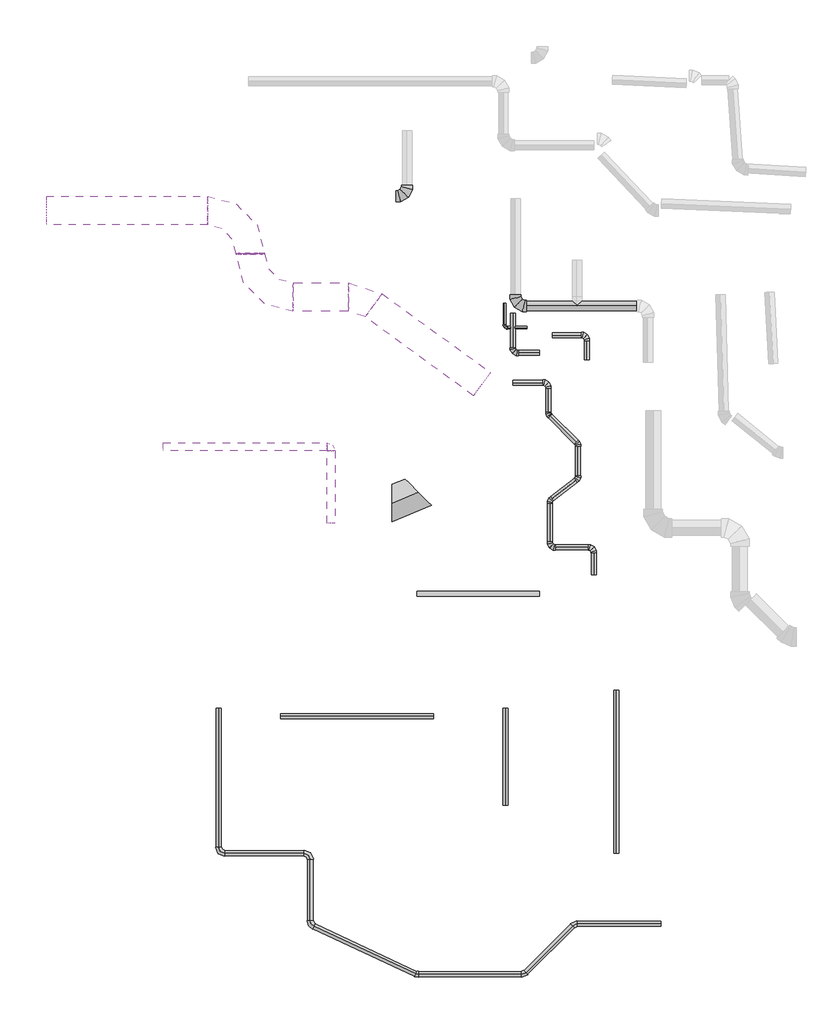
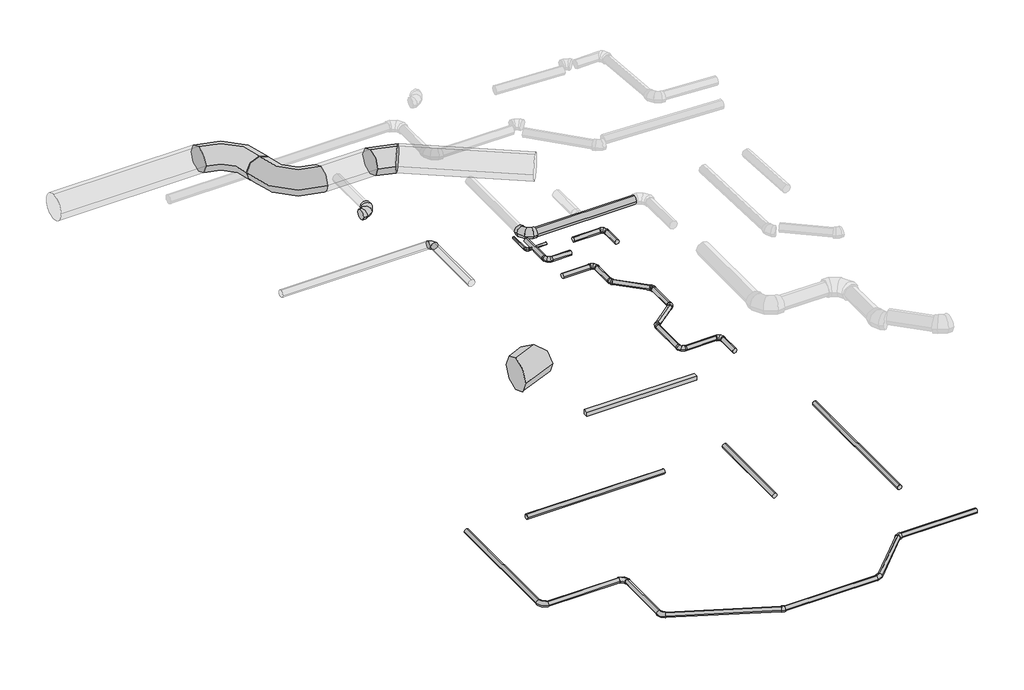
# One storey, part 1 of 3: 30 duct segments, 22 duct fittings, 2 pipe segments, 1 pipe fitting.
"""IFC4 building model written with IfcOpenShell, lengths in millimetres."""

from ifc_helpers import new_model, si_unit, point, frame, frame_2d, origin, place, context, project, spatial, polyline, circle_curve, trimmed, segment, composite_curve, outline, extrude, transform, mapped, element, save
from components import duct_fitting_6987a024, duct_fitting_27cbf9b6, duct_fitting_69a142ec, duct_fitting_c88ccaa3, duct_fitting_2eb66d24, duct_fitting_f8626610, duct_fitting_3c3d5e25, duct_fitting_da02216d, duct_fitting_e8799786, duct_fitting_a78c4c42, duct_fitting_1_5_d_baae490d, duct_fitting_1_5_d_02080cf1, pipe_fitting_aa2ad946

model = new_model("IFC4")

# Units and contexts
model_context = context("Model", 3, world=origin())
ifc_project = project(units=[si_unit("LENGTHUNIT", "METRE", prefix="MILLI")], contexts=[model_context])

# Site, building, storey
site = spatial("IfcSite", under=ifc_project)
building = spatial("IfcBuilding", under=site)
storey = spatial("IfcBuildingStorey", under=building, Name="Уровень 1", Elevation=0.0)

# Duct fittings
placement = place(None, origin())
duct_fitting_shape = duct_fitting_6987a024(model_context)
element("IfcDuctFitting", 1, ObjectType="17_Отвод_Заключение : 10_Отвод_3D объект", at=placement, inside=storey, context=model_context, shape_type="MappedRepresentation", body=[
    mapped(duct_fitting_shape, transform((-4537.0211343, -1885.8149029, 0.0), x_axis=(1.0, 0.0, 0.0), y_axis=(0.0, 1.0, 0.0), z_axis=(0.0, 0.0, 1.0))),
])
element("IfcDuctFitting", 2, ObjectType="17_Отвод_Заключение : 10_Отвод_3D объект", at=placement, inside=storey, context=model_context, shape_type="MappedRepresentation", body=[
    mapped(duct_fitting_shape, transform((-2409.9839387, -4038.667233, 0.0), x_axis=(0.0, -1.0, 0.0), y_axis=(1.0, 0.0, 0.0), z_axis=(0.0, 0.0, 1.0))),
])
duct_fitting_2_shape = duct_fitting_27cbf9b6(model_context)
element("IfcDuctFitting", 3, ObjectType="17_Отвод_Заключение : 10_Отвод_3D объект", at=placement, inside=storey, context=model_context, shape_type="MappedRepresentation", body=[
    mapped(duct_fitting_2_shape, transform((-2626.6796445, -4464.2825937, 0.0), x_axis=(0.0, -1.0, 0.0), y_axis=(1.0, 0.0, 0.0), z_axis=(0.0, 0.0, 1.0))),
])
duct_fitting_3_shape = duct_fitting_69a142ec(model_context)
element("IfcDuctFitting", 4, ObjectType="17_Отвод_Заключение : 10_Отвод_3D объект", at=placement, inside=storey, context=model_context, shape_type="MappedRepresentation", body=[
    mapped(duct_fitting_3_shape, transform((-2465.4302984, -4959.1993857, 0.0), x_axis=(0.0, -1.0, 0.0), y_axis=(1.0, 0.0, 0.0), z_axis=(0.0, 0.0, 1.0))),
])
element("IfcDuctFitting", 5, ObjectType="17_Отвод_Заключение : 10_Отвод_3D объект", at=placement, inside=storey, context=model_context, shape_type="MappedRepresentation", body=[
    mapped(duct_fitting_3_shape, transform((-1010.431462, -4610.2651174, 0.0), x_axis=(0.0, 1.0, 0.0), y_axis=(-1.0, 0.0, 0.0), z_axis=(0.0, 0.0, 1.0))),
])
element("IfcDuctFitting", 6, ObjectType="17_Отвод_Заключение : 10_Отвод_3D объект", at=placement, inside=storey, context=model_context, shape_type="MappedRepresentation", body=[
    mapped(duct_fitting_3_shape, transform((-1765.4302984, -5542.2332324, 0.0), x_axis=(0.0, 1.0, 0.0), y_axis=(-1.0, 0.0, 0.0), z_axis=(0.0, 0.0, 1.0))),
])
element("IfcDuctFitting", 7, ObjectType="17_Отвод_Заключение : 10_Отвод_3D объект", at=placement, inside=storey, context=model_context, shape_type="MappedRepresentation", body=[
    mapped(duct_fitting_3_shape, transform((-1737.2102653, -8773.0238257, 0.0), x_axis=(0.0, -1.0, 0.0), y_axis=(1.0, 0.0, 0.0), z_axis=(0.0, 0.0, 1.0))),
])
element("IfcDuctFitting", 8, ObjectType="17_Отвод_Заключение : 10_Отвод_3D объект", at=placement, inside=storey, context=model_context, shape_type="MappedRepresentation", body=[
    mapped(duct_fitting_3_shape, transform((-877.2102653, -8773.0238257, 0.0), x_axis=(0.0, 1.0, 0.0), y_axis=(-1.0, 0.0, 0.0), z_axis=(0.0, 0.0, 1.0))),
])
duct_fitting_4_shape = duct_fitting_c88ccaa3(model_context)
element("IfcDuctFitting", 9, ObjectType="17_Отвод_Заключение : 10_Отвод_3D объект", at=placement, inside=storey, context=model_context, shape_type="MappedRepresentation", body=[
    mapped(duct_fitting_4_shape, transform((-1765.4302984, -6162.2332324, 0.0), x_axis=(0.0, -1.0, 0.0), y_axis=(1.0, 0.0, 0.0), z_axis=(0.0, 0.0, 1.0))),
])
element("IfcDuctFitting", 10, ObjectType="17_Отвод_Заключение : 10_Отвод_3D объект", at=placement, inside=storey, context=model_context, shape_type="MappedRepresentation", body=[
    mapped(duct_fitting_4_shape, transform((-1185.6027378, -6742.0607929, 0.0), x_axis=(0.0, 1.0, 0.0), y_axis=(-1.0, 0.0, 0.0), z_axis=(0.0, 0.0, 1.0))),
])
duct_fitting_5_shape = duct_fitting_2eb66d24(model_context)
element("IfcDuctFitting", 11, ObjectType="17_Отвод_Заключение : 10_Отвод_3D объект", at=placement, inside=storey, context=model_context, shape_type="MappedRepresentation", body=[
    mapped(duct_fitting_5_shape, transform((-1185.6027378, -7422.0607929, 0.0), x_axis=(0.7880107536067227, 0.6156614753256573, 0.0), y_axis=(-0.6156614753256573, 0.7880107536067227, 0.0), z_axis=(0.0, 0.0, 1.0))),
])
element("IfcDuctFitting", 12, ObjectType="17_Отвод_Заключение : 10_Отвод_3D объект", at=placement, inside=storey, context=model_context, shape_type="MappedRepresentation", body=[
    mapped(duct_fitting_5_shape, transform((-1737.2102653, -7853.0238257, 0.0), x_axis=(-0.7880107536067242, -0.6156614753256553, 0.0), y_axis=(0.6156614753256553, -0.7880107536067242, 0.0), z_axis=(0.0, 0.0, 1.0))),
])
duct_fitting_6_shape = duct_fitting_f8626610(model_context)
element("IfcDuctFitting", 13, ObjectType="Семейство10 : Стандартная", at=placement, inside=storey, context=model_context, shape_type="MappedRepresentation", body=[
    mapped(duct_fitting_6_shape, transform((-4537.0211343, -7904.7234801, 0.0), x_axis=(1.0, 0.0, 0.0), y_axis=(0.0, 1.0, 0.0), z_axis=(0.0, 0.0, 1.0))),
])
duct_fitting_7_shape = duct_fitting_3c3d5e25(model_context)
element("IfcDuctFitting", 14, ObjectType="Семейство10 : Стандартная", at=placement, inside=storey, context=model_context, shape_type="MappedRepresentation", body=[
    mapped(duct_fitting_7_shape, transform((-8239.6314798, -14771.3557162, 0.0), x_axis=(0.0, -1.0, 0.0), y_axis=(1.0, 0.0, 0.0), z_axis=(0.0, 0.0, 1.0))),
])
element("IfcDuctFitting", 15, ObjectType="Семейство10 : Стандартная", at=placement, inside=storey, context=model_context, shape_type="MappedRepresentation", body=[
    mapped(duct_fitting_7_shape, transform((-6439.6314798, -14771.3557162, 0.0), x_axis=(0.0, 1.0, 0.0), y_axis=(-1.0, 0.0, 0.0), z_axis=(0.0, 0.0, 1.0))),
])
duct_fitting_8_shape = duct_fitting_da02216d(model_context)
element("IfcDuctFitting", 16, ObjectType="Семейство10 : Стандартная", at=placement, inside=storey, context=model_context, shape_type="MappedRepresentation", body=[
    mapped(duct_fitting_8_shape, transform((-6439.6314798, -16171.3557162, 0.0), x_axis=(0.0, -1.0, 0.0), y_axis=(1.0, 0.0, 0.0), z_axis=(0.0, 0.0, 1.0))),
])
duct_fitting_9_shape = duct_fitting_e8799786(model_context)
element("IfcDuctFitting", 17, ObjectType="Семейство10 : Стандартная", at=placement, inside=storey, context=model_context, shape_type="MappedRepresentation", body=[
    mapped(duct_fitting_9_shape, transform((-4345.4302984, -17147.8977648, 0.0), x_axis=(0.9063077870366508, -0.4226182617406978, 0.0), y_axis=(0.4226182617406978, 0.9063077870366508, 0.0), z_axis=(0.0, 0.0, 1.0))),
])
duct_fitting_10_shape = duct_fitting_a78c4c42(model_context)
element("IfcDuctFitting", 18, ObjectType="Семейство10 : Стандартная", at=placement, inside=storey, context=model_context, shape_type="MappedRepresentation", body=[
    mapped(duct_fitting_10_shape, transform((-2245.4302984, -17147.8977648, 0.0), x_axis=(1.0, 0.0, 0.0), y_axis=(0.0, 1.0, 0.0), z_axis=(0.0, 0.0, 1.0))),
])
element("IfcDuctFitting", 19, ObjectType="Семейство10 : Стандартная", at=placement, inside=storey, context=model_context, shape_type="MappedRepresentation", body=[
    mapped(duct_fitting_10_shape, transform((-1255.4808047, -16157.9482712, 0.0), x_axis=(-1.0, 0.0, 0.0), y_axis=(0.0, -1.0, 0.0), z_axis=(0.0, 0.0, 1.0))),
])
duct_fitting_1_5_d_shape = duct_fitting_1_5_d_baae490d(model_context)
element("IfcDuctFitting", 20, ObjectType="M_Отвод круглого сечения : 1.5 D", at=placement, inside=storey, context=model_context, shape_type="MappedRepresentation", body=[
    mapped(duct_fitting_1_5_d_shape, transform((-7615.9250029, -2165.8149029, 2750.0), x_axis=(0.0, 1.0, 0.0), y_axis=(-1.0, 0.0, 0.0), z_axis=(0.0, 0.0, 1.0))),
])
element("IfcDuctFitting", 21, ObjectType="M_Отвод круглого сечения : 1.5 D", at=placement, inside=storey, context=model_context, shape_type="MappedRepresentation", body=[
    mapped(duct_fitting_1_5_d_shape, transform((-7615.9250029, -3865.8149029, 2750.0), x_axis=(0.0, -1.0, 0.0), y_axis=(1.0, 0.0, 0.0), z_axis=(0.0, 0.0, 1.0))),
])
duct_fitting_1_5_d_2_shape = duct_fitting_1_5_d_02080cf1(model_context)
element("IfcDuctFitting", 22, ObjectType="M_Отвод круглого сечения : 1.5 D", at=placement, inside=storey, context=model_context, shape_type="MappedRepresentation", body=[
    mapped(duct_fitting_1_5_d_2_shape, transform((-5415.9250029, -3865.8149029, 2750.0), x_axis=(-0.8090169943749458, 0.5877852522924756, 0.0), y_axis=(-0.5877852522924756, -0.8090169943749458, 0.0), z_axis=(0.0, 0.0, 1.0))),
])

# Duct segments
element("IfcDuctSegment", 23, ObjectType="Врезки", at=placement, inside=storey, context=model_context, shape_type="SweptSolid", body=[
    extrude(outline(composite_curve([segment(trimmed(circle_curve(frame_2d((-2165.8149029, 2750.0)), 280.0), [point((-2445.8149029, 2750.0))], [point((-2165.8149029, 3030.0))], False, "CARTESIAN"), True, "CONTINUOUS"), segment(trimmed(circle_curve(frame_2d((-2165.8149029, 2750.0)), 280.0), [point((-2165.8149029, 3030.0))], [point((-1885.8149029, 2750.0))], False, "CARTESIAN"), True, "CONTINUOUS"), segment(trimmed(circle_curve(frame_2d((-2165.8149029, 2750.0)), 280.0), [point((-1885.8149029, 2750.0))], [point((-2165.8149029, 2470.0))], False, "CARTESIAN"), True, "CONTINUOUS"), segment(trimmed(circle_curve(frame_2d((-2165.8149029, 2750.0)), 280.0), [point((-2165.8149029, 2470.0))], [point((-2445.8149029, 2750.0))], False, "CARTESIAN"), True, "CONTINUOUS")], self_intersect=False)), frame((-11615.9250029, 0.0, 0.0), z_axis=(1.0, 0.0, 0.0), x_axis=(0.0, 1.0, 0.0)), (0.0, 0.0, 1.0), 3160.0),
])
element("IfcDuctSegment", 24, ObjectType="Врезки", at=placement, inside=storey, context=model_context, shape_type="SweptSolid", body=[
    extrude(outline(composite_curve([segment(trimmed(circle_curve(frame_2d((2750.0, -7615.9250029)), 280.0), [point((2750.0, -7895.9250029))], [point((2470.0, -7615.9250029))], False, "CARTESIAN"), True, "CONTINUOUS"), segment(trimmed(circle_curve(frame_2d((2750.0, -7615.9250029)), 280.0), [point((2470.0, -7615.9250029))], [point((2750.0, -7335.9250029))], False, "CARTESIAN"), True, "CONTINUOUS"), segment(trimmed(circle_curve(frame_2d((2750.0, -7615.9250029)), 280.0), [point((2750.0, -7335.9250029))], [point((3030.0, -7615.9250029))], False, "CARTESIAN"), True, "CONTINUOUS"), segment(trimmed(circle_curve(frame_2d((2750.0, -7615.9250029)), 280.0), [point((3030.0, -7615.9250029))], [point((2750.0, -7895.9250029))], False, "CARTESIAN"), True, "CONTINUOUS")], self_intersect=False)), frame((0.0, -3025.8149029, 0.0), z_axis=(0.0, 1.0, 0.0), x_axis=(0.0, 0.0, 1.0)), (0.0, 0.0, 1.0), 20.0),
])
element("IfcDuctSegment", 25, ObjectType="Врезки", at=placement, inside=storey, context=model_context, shape_type="SweptSolid", body=[
    extrude(outline(composite_curve([segment(trimmed(circle_curve(frame_2d((-3865.8149029, 2750.0)), 280.0), [point((-4145.8149029, 2750.0))], [point((-3865.8149029, 3030.0))], False, "CARTESIAN"), True, "CONTINUOUS"), segment(trimmed(circle_curve(frame_2d((-3865.8149029, 2750.0)), 280.0), [point((-3865.8149029, 3030.0))], [point((-3585.8149029, 2750.0))], False, "CARTESIAN"), True, "CONTINUOUS"), segment(trimmed(circle_curve(frame_2d((-3865.8149029, 2750.0)), 280.0), [point((-3585.8149029, 2750.0))], [point((-3865.8149029, 2470.0))], False, "CARTESIAN"), True, "CONTINUOUS"), segment(trimmed(circle_curve(frame_2d((-3865.8149029, 2750.0)), 280.0), [point((-3865.8149029, 2470.0))], [point((-4145.8149029, 2750.0))], False, "CARTESIAN"), True, "CONTINUOUS")], self_intersect=False)), frame((-6775.9250029, 0.0, 0.0), z_axis=(1.0, 0.0, 0.0), x_axis=(0.0, 1.0, 0.0)), (0.0, 0.0, 1.0), 1087.0674552),
])
element("IfcDuctSegment", 26, ObjectType="Врезки", at=placement, inside=storey, context=model_context, shape_type="SweptSolid", body=[
    extrude(outline(composite_curve([segment(trimmed(circle_curve(frame_2d((0.0, -280.0)), 280.0), [point((-280.0, -280.0))], [point((0.0, 0.0))], False, "CARTESIAN"), True, "CONTINUOUS"), segment(trimmed(circle_curve(frame_2d((0.0, -280.0)), 280.0), [point((0.0, 0.0))], [point((280.0, -280.0))], False, "CARTESIAN"), True, "CONTINUOUS"), segment(trimmed(circle_curve(frame_2d((0.0, -280.0)), 280.0), [point((280.0, -280.0))], [point((0.0, -560.0))], False, "CARTESIAN"), True, "CONTINUOUS"), segment(trimmed(circle_curve(frame_2d((0.0, -280.0)), 280.0), [point((0.0, -560.0))], [point((-280.0, -280.0))], False, "CARTESIAN"), True, "CONTINUOUS")], self_intersect=False)), frame((-3069.7757192, -5570.3921345, 2470.0), z_axis=(-0.8090169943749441, 0.5877852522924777, 0.0), x_axis=(0.5877852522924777, 0.8090169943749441, 0.0)), (0.0, 0.0, 1.0), 2627.0674552),
])
element("IfcDuctSegment", 27, ObjectType="Врезки 2", at=placement, inside=storey, context=model_context, shape_type="SweptSolid", body=[
    extrude(outline(composite_curve([segment(trimmed(circle_curve(frame_2d((-4038.667233, 0.0)), 90.0), [point((-4128.667233, 0.0))], [point((-4038.667233, 90.0))], False, "CARTESIAN"), True, "CONTINUOUS"), segment(trimmed(circle_curve(frame_2d((-4038.667233, 0.0)), 90.0), [point((-4038.667233, 90.0))], [point((-3948.667233, 0.0))], False, "CARTESIAN"), True, "CONTINUOUS"), segment(trimmed(circle_curve(frame_2d((-4038.667233, 0.0)), 90.0), [point((-3948.667233, 0.0))], [point((-4038.667233, -90.0))], False, "CARTESIAN"), True, "CONTINUOUS"), segment(trimmed(circle_curve(frame_2d((-4038.667233, 0.0)), 90.0), [point((-4038.667233, -90.0))], [point((-4128.667233, 0.0))], False, "CARTESIAN"), True, "CONTINUOUS")], self_intersect=False)), frame((-2193.9839387, 0.0, 0.0), z_axis=(1.0, 0.0, 0.0), x_axis=(0.0, 1.0, 0.0)), (0.0, 0.0, 1.0), 2168.0),
])
element("IfcDuctSegment", 28, ObjectType="Врезки 2", at=placement, inside=storey, context=model_context, shape_type="SweptSolid", body=[
    extrude(outline(composite_curve([segment(trimmed(circle_curve(frame_2d((0.0, -2626.6796445)), 25.0), [point((0.0, -2651.6796445))], [point((-25.0, -2626.6796445))], False, "CARTESIAN"), True, "CONTINUOUS"), segment(trimmed(circle_curve(frame_2d((0.0, -2626.6796445)), 25.0), [point((-25.0, -2626.6796445))], [point((0.0, -2601.6796445))], False, "CARTESIAN"), True, "CONTINUOUS"), segment(trimmed(circle_curve(frame_2d((0.0, -2626.6796445)), 25.0), [point((0.0, -2601.6796445))], [point((25.0, -2626.6796445))], False, "CARTESIAN"), True, "CONTINUOUS"), segment(trimmed(circle_curve(frame_2d((0.0, -2626.6796445)), 25.0), [point((25.0, -2626.6796445))], [point((0.0, -2651.6796445))], False, "CARTESIAN"), True, "CONTINUOUS")], self_intersect=False)), frame((0.0, -4404.2825937, 0.0), z_axis=(0.0, 1.0, 0.0), x_axis=(0.0, 0.0, 1.0)), (0.0, 0.0, 1.0), 420.0),
])
element("IfcDuctSegment", 29, ObjectType="Врезки 2", at=placement, inside=storey, context=model_context, shape_type="SweptSolid", body=[
    extrude(outline(composite_curve([segment(trimmed(circle_curve(frame_2d((-4464.2825937, 0.0)), 25.0), [point((-4489.2825937, 0.0))], [point((-4464.2825937, 25.0))], False, "CARTESIAN"), True, "CONTINUOUS"), segment(trimmed(circle_curve(frame_2d((-4464.2825937, 0.0)), 25.0), [point((-4464.2825937, 25.0))], [point((-4439.2825937, 0.0))], False, "CARTESIAN"), True, "CONTINUOUS"), segment(trimmed(circle_curve(frame_2d((-4464.2825937, 0.0)), 25.0), [point((-4439.2825937, 0.0))], [point((-4464.2825937, -25.0))], False, "CARTESIAN"), True, "CONTINUOUS"), segment(trimmed(circle_curve(frame_2d((-4464.2825937, 0.0)), 25.0), [point((-4464.2825937, -25.0))], [point((-4489.2825937, 0.0))], False, "CARTESIAN"), True, "CONTINUOUS")], self_intersect=False)), frame((-2566.6796445, 0.0, 0.0), z_axis=(1.0, 0.0, 0.0), x_axis=(0.0, 1.0, 0.0)), (0.0, 0.0, 1.0), 380.0),
])
element("IfcDuctSegment", 30, ObjectType="Врезки 2", at=placement, inside=storey, context=model_context, shape_type="SweptSolid", body=[
    extrude(outline(composite_curve([segment(trimmed(circle_curve(frame_2d((0.0, -2465.4302984)), 50.0), [point((0.0, -2515.4302984))], [point((-50.0, -2465.4302984))], False, "CARTESIAN"), True, "CONTINUOUS"), segment(trimmed(circle_curve(frame_2d((0.0, -2465.4302984)), 50.0), [point((-50.0, -2465.4302984))], [point((0.0, -2415.4302984))], False, "CARTESIAN"), True, "CONTINUOUS"), segment(trimmed(circle_curve(frame_2d((0.0, -2465.4302984)), 50.0), [point((0.0, -2415.4302984))], [point((50.0, -2465.4302984))], False, "CARTESIAN"), True, "CONTINUOUS"), segment(trimmed(circle_curve(frame_2d((0.0, -2465.4302984)), 50.0), [point((50.0, -2465.4302984))], [point((0.0, -2515.4302984))], False, "CARTESIAN"), True, "CONTINUOUS")], self_intersect=False)), frame((0.0, -4853.1993857, 0.0), z_axis=(0.0, 1.0, 0.0), x_axis=(0.0, 0.0, 1.0)), (0.0, 0.0, 1.0), 674.0),
])
element("IfcDuctSegment", 31, ObjectType="Врезки 2", at=placement, inside=storey, context=model_context, shape_type="SweptSolid", body=[
    extrude(outline(composite_curve([segment(trimmed(circle_curve(frame_2d((-4959.1993857, 0.0)), 50.0), [point((-5009.1993857, 0.0))], [point((-4959.1993857, 50.0))], False, "CARTESIAN"), True, "CONTINUOUS"), segment(trimmed(circle_curve(frame_2d((-4959.1993857, 0.0)), 50.0), [point((-4959.1993857, 50.0))], [point((-4909.1993857, 0.0))], False, "CARTESIAN"), True, "CONTINUOUS"), segment(trimmed(circle_curve(frame_2d((-4959.1993857, 0.0)), 50.0), [point((-4909.1993857, 0.0))], [point((-4959.1993857, -50.0))], False, "CARTESIAN"), True, "CONTINUOUS"), segment(trimmed(circle_curve(frame_2d((-4959.1993857, 0.0)), 50.0), [point((-4959.1993857, -50.0))], [point((-5009.1993857, 0.0))], False, "CARTESIAN"), True, "CONTINUOUS")], self_intersect=False)), frame((-2359.4302984, 0.0, 0.0), z_axis=(1.0, 0.0, 0.0), x_axis=(0.0, 1.0, 0.0)), (0.0, 0.0, 1.0), 414.0),
])
element("IfcDuctSegment", 32, ObjectType="Врезки 2", at=placement, inside=storey, context=model_context, shape_type="SweptSolid", body=[
    extrude(outline(composite_curve([segment(trimmed(circle_curve(frame_2d((-4610.2651174, 0.0)), 50.0), [point((-4660.2651174, 0.0))], [point((-4610.2651174, 50.0))], False, "CARTESIAN"), True, "CONTINUOUS"), segment(trimmed(circle_curve(frame_2d((-4610.2651174, 0.0)), 50.0), [point((-4610.2651174, 50.0))], [point((-4560.2651174, 0.0))], False, "CARTESIAN"), True, "CONTINUOUS"), segment(trimmed(circle_curve(frame_2d((-4610.2651174, 0.0)), 50.0), [point((-4560.2651174, 0.0))], [point((-4610.2651174, -50.0))], False, "CARTESIAN"), True, "CONTINUOUS"), segment(trimmed(circle_curve(frame_2d((-4610.2651174, 0.0)), 50.0), [point((-4610.2651174, -50.0))], [point((-4660.2651174, 0.0))], False, "CARTESIAN"), True, "CONTINUOUS")], self_intersect=False)), frame((-1690.431462, 0.0, 0.0), z_axis=(1.0, 0.0, 0.0), x_axis=(0.0, 1.0, 0.0)), (0.0, 0.0, 1.0), 574.0),
])
element("IfcDuctSegment", 33, ObjectType="Врезки 2", at=placement, inside=storey, context=model_context, shape_type="SweptSolid", body=[
    extrude(outline(composite_curve([segment(trimmed(circle_curve(frame_2d((0.0, -1010.431462)), 50.0), [point((0.0, -1060.431462))], [point((-50.0, -1010.431462))], False, "CARTESIAN"), True, "CONTINUOUS"), segment(trimmed(circle_curve(frame_2d((0.0, -1010.431462)), 50.0), [point((-50.0, -1010.431462))], [point((0.0, -960.431462))], False, "CARTESIAN"), True, "CONTINUOUS"), segment(trimmed(circle_curve(frame_2d((0.0, -1010.431462)), 50.0), [point((0.0, -960.431462))], [point((50.0, -1010.431462))], False, "CARTESIAN"), True, "CONTINUOUS"), segment(trimmed(circle_curve(frame_2d((0.0, -1010.431462)), 50.0), [point((50.0, -1010.431462))], [point((0.0, -1060.431462))], False, "CARTESIAN"), True, "CONTINUOUS")], self_intersect=False)), frame((0.0, -5090.2651174, 0.0), z_axis=(0.0, 1.0, 0.0), x_axis=(0.0, 0.0, 1.0)), (0.0, 0.0, 1.0), 374.0),
])
element("IfcDuctSegment", 34, ObjectType="Врезки 2", at=placement, inside=storey, context=model_context, shape_type="SweptSolid", body=[
    extrude(outline(composite_curve([segment(trimmed(circle_curve(frame_2d((-5542.2332324, 0.0)), 50.0), [point((-5592.2332324, 0.0))], [point((-5542.2332324, 50.0))], False, "CARTESIAN"), True, "CONTINUOUS"), segment(trimmed(circle_curve(frame_2d((-5542.2332324, 0.0)), 50.0), [point((-5542.2332324, 50.0))], [point((-5492.2332324, 0.0))], False, "CARTESIAN"), True, "CONTINUOUS"), segment(trimmed(circle_curve(frame_2d((-5542.2332324, 0.0)), 50.0), [point((-5492.2332324, 0.0))], [point((-5542.2332324, -50.0))], False, "CARTESIAN"), True, "CONTINUOUS"), segment(trimmed(circle_curve(frame_2d((-5542.2332324, 0.0)), 50.0), [point((-5542.2332324, -50.0))], [point((-5592.2332324, 0.0))], False, "CARTESIAN"), True, "CONTINUOUS")], self_intersect=False)), frame((-2465.4302984, 0.0, 0.0), z_axis=(1.0, 0.0, 0.0), x_axis=(0.0, 1.0, 0.0)), (0.0, 0.0, 1.0), 594.0),
])
element("IfcDuctSegment", 35, ObjectType="Врезки 2", at=placement, inside=storey, context=model_context, shape_type="SweptSolid", body=[
    extrude(outline(composite_curve([segment(trimmed(circle_curve(frame_2d((0.0, -1765.4302984)), 50.0), [point((0.0, -1815.4302984))], [point((-50.0, -1765.4302984))], False, "CARTESIAN"), True, "CONTINUOUS"), segment(trimmed(circle_curve(frame_2d((0.0, -1765.4302984)), 50.0), [point((-50.0, -1765.4302984))], [point((0.0, -1715.4302984))], False, "CARTESIAN"), True, "CONTINUOUS"), segment(trimmed(circle_curve(frame_2d((0.0, -1765.4302984)), 50.0), [point((0.0, -1715.4302984))], [point((50.0, -1765.4302984))], False, "CARTESIAN"), True, "CONTINUOUS"), segment(trimmed(circle_curve(frame_2d((0.0, -1765.4302984)), 50.0), [point((50.0, -1765.4302984))], [point((0.0, -1815.4302984))], False, "CARTESIAN"), True, "CONTINUOUS")], self_intersect=False)), frame((0.0, -6118.3265948, 0.0), z_axis=(0.0, 1.0, 0.0), x_axis=(0.0, 0.0, 1.0)), (0.0, 0.0, 1.0), 470.0933624),
])
element("IfcDuctSegment", 36, ObjectType="Врезки 2", at=placement, inside=storey, context=model_context, shape_type="SweptSolid", body=[
    extrude(outline(composite_curve([segment(trimmed(circle_curve(frame_2d((0.0, -50.0)), 50.0), [point((-50.0, -50.0))], [point((0.0, 0.0))], False, "CARTESIAN"), True, "CONTINUOUS"), segment(trimmed(circle_curve(frame_2d((0.0, -50.0)), 50.0), [point((0.0, 0.0))], [point((50.0, -50.0))], False, "CARTESIAN"), True, "CONTINUOUS"), segment(trimmed(circle_curve(frame_2d((0.0, -50.0)), 50.0), [point((50.0, -50.0))], [point((0.0, -100.0))], False, "CARTESIAN"), True, "CONTINUOUS"), segment(trimmed(circle_curve(frame_2d((0.0, -50.0)), 50.0), [point((0.0, -100.0))], [point((-50.0, -50.0))], False, "CARTESIAN"), True, "CONTINUOUS")], self_intersect=False)), frame((-1216.649419, -6711.0141117, -50.0), z_axis=(-0.7071067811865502, 0.7071067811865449, 0.0), x_axis=(0.7071067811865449, 0.7071067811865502, 0.0)), (0.0, 0.0, 1.0), 732.1867248),
])
element("IfcDuctSegment", 37, ObjectType="Врезки 2", at=placement, inside=storey, context=model_context, shape_type="SweptSolid", body=[
    extrude(outline(composite_curve([segment(trimmed(circle_curve(frame_2d((0.0, -1185.6027378)), 50.0), [point((0.0, -1235.6027378))], [point((-50.0, -1185.6027378))], False, "CARTESIAN"), True, "CONTINUOUS"), segment(trimmed(circle_curve(frame_2d((0.0, -1185.6027378)), 50.0), [point((-50.0, -1185.6027378))], [point((0.0, -1135.6027378))], False, "CARTESIAN"), True, "CONTINUOUS"), segment(trimmed(circle_curve(frame_2d((0.0, -1185.6027378)), 50.0), [point((0.0, -1135.6027378))], [point((50.0, -1185.6027378))], False, "CARTESIAN"), True, "CONTINUOUS"), segment(trimmed(circle_curve(frame_2d((0.0, -1185.6027378)), 50.0), [point((50.0, -1185.6027378))], [point((0.0, -1235.6027378))], False, "CARTESIAN"), True, "CONTINUOUS")], self_intersect=False)), frame((0.0, -7370.3611386, 0.0), z_axis=(0.0, 1.0, 0.0), x_axis=(0.0, 0.0, 1.0)), (0.0, 0.0, 1.0), 584.393708),
])
element("IfcDuctSegment", 38, ObjectType="Врезки 2", at=placement, inside=storey, context=model_context, shape_type="SweptSolid", body=[
    extrude(outline(composite_curve([segment(trimmed(circle_curve(frame_2d((0.0, -50.0)), 50.0), [point((-50.0, -50.0))], [point((0.0, 0.0))], False, "CARTESIAN"), True, "CONTINUOUS"), segment(trimmed(circle_curve(frame_2d((0.0, -50.0)), 50.0), [point((0.0, 0.0))], [point((50.0, -50.0))], False, "CARTESIAN"), True, "CONTINUOUS"), segment(trimmed(circle_curve(frame_2d((0.0, -50.0)), 50.0), [point((50.0, -50.0))], [point((0.0, -100.0))], False, "CARTESIAN"), True, "CONTINUOUS"), segment(trimmed(circle_curve(frame_2d((0.0, -50.0)), 50.0), [point((0.0, -100.0))], [point((-50.0, -50.0))], False, "CARTESIAN"), True, "CONTINUOUS")], self_intersect=False)), frame((-1696.4703817, -7821.1943402, -50.0), z_axis=(0.7880107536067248, 0.6156614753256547, 0.0), x_axis=(0.6156614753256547, -0.7880107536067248, 0.0)), (0.0, 0.0, 1.0), 596.6006912),
])
element("IfcDuctSegment", 39, ObjectType="Врезки 2", at=placement, inside=storey, context=model_context, shape_type="SweptSolid", body=[
    extrude(outline(composite_curve([segment(trimmed(circle_curve(frame_2d((0.0, -1737.2102653)), 50.0), [point((0.0, -1787.2102653))], [point((-50.0, -1737.2102653))], False, "CARTESIAN"), True, "CONTINUOUS"), segment(trimmed(circle_curve(frame_2d((0.0, -1737.2102653)), 50.0), [point((-50.0, -1737.2102653))], [point((0.0, -1687.2102653))], False, "CARTESIAN"), True, "CONTINUOUS"), segment(trimmed(circle_curve(frame_2d((0.0, -1737.2102653)), 50.0), [point((0.0, -1687.2102653))], [point((50.0, -1737.2102653))], False, "CARTESIAN"), True, "CONTINUOUS"), segment(trimmed(circle_curve(frame_2d((0.0, -1737.2102653)), 50.0), [point((50.0, -1737.2102653))], [point((0.0, -1787.2102653))], False, "CARTESIAN"), True, "CONTINUOUS")], self_intersect=False)), frame((0.0, -8667.0238257, 0.0), z_axis=(0.0, 1.0, 0.0), x_axis=(0.0, 0.0, 1.0)), (0.0, 0.0, 1.0), 762.3003456),
])
element("IfcDuctSegment", 40, ObjectType="Врезки 2", at=placement, inside=storey, context=model_context, shape_type="SweptSolid", body=[
    extrude(outline(composite_curve([segment(trimmed(circle_curve(frame_2d((-8773.0238257, 0.0)), 50.0), [point((-8823.0238257, 0.0))], [point((-8773.0238257, 50.0))], False, "CARTESIAN"), True, "CONTINUOUS"), segment(trimmed(circle_curve(frame_2d((-8773.0238257, 0.0)), 50.0), [point((-8773.0238257, 50.0))], [point((-8723.0238257, 0.0))], False, "CARTESIAN"), True, "CONTINUOUS"), segment(trimmed(circle_curve(frame_2d((-8773.0238257, 0.0)), 50.0), [point((-8723.0238257, 0.0))], [point((-8773.0238257, -50.0))], False, "CARTESIAN"), True, "CONTINUOUS"), segment(trimmed(circle_curve(frame_2d((-8773.0238257, 0.0)), 50.0), [point((-8773.0238257, -50.0))], [point((-8823.0238257, 0.0))], False, "CARTESIAN"), True, "CONTINUOUS")], self_intersect=False)), frame((-1631.2102653, 0.0, 0.0), z_axis=(1.0, 0.0, 0.0), x_axis=(0.0, 1.0, 0.0)), (0.0, 0.0, 1.0), 648.0),
])
element("IfcDuctSegment", 41, ObjectType="Врезки 2", at=placement, inside=storey, context=model_context, shape_type="SweptSolid", body=[
    extrude(outline(composite_curve([segment(trimmed(circle_curve(frame_2d((0.0, -877.2102653)), 50.0), [point((0.0, -927.2102653))], [point((-50.0, -877.2102653))], False, "CARTESIAN"), True, "CONTINUOUS"), segment(trimmed(circle_curve(frame_2d((0.0, -877.2102653)), 50.0), [point((-50.0, -877.2102653))], [point((0.0, -827.2102653))], False, "CARTESIAN"), True, "CONTINUOUS"), segment(trimmed(circle_curve(frame_2d((0.0, -877.2102653)), 50.0), [point((0.0, -827.2102653))], [point((50.0, -877.2102653))], False, "CARTESIAN"), True, "CONTINUOUS"), segment(trimmed(circle_curve(frame_2d((0.0, -877.2102653)), 50.0), [point((50.0, -877.2102653))], [point((0.0, -927.2102653))], False, "CARTESIAN"), True, "CONTINUOUS")], self_intersect=False)), frame((0.0, -9313.0238257, 0.0), z_axis=(0.0, 1.0, 0.0), x_axis=(0.0, 0.0, 1.0)), (0.0, 0.0, 1.0), 434.0),
])
element("IfcDuctSegment", 42, ObjectType="Закругленные отводы / врезки 2", at=placement, inside=storey, context=model_context, shape_type="SweptSolid", body=[
    extrude(outline(polyline([(-1945.4302984, -9635.3623904), (-1945.4302984, -9735.3623904), (-4345.4302984, -9735.3623904), (-4345.4302984, -9635.3623904), (-1945.4302984, -9635.3623904)])), frame((0.0, 0.0, -50.0), z_axis=(0.0, 0.0, 1.0), x_axis=(1.0, 0.0, 0.0)), (0.0, 0.0, 1.0), 100.0),
])
element("IfcDuctSegment", 43, ObjectType="Врезки 3", at=placement, inside=storey, context=model_context, shape_type="SweptSolid", body=[
    extrude(outline(composite_curve([segment(trimmed(circle_curve(frame_2d((-12083.776047, 0.0)), 50.0), [point((-12133.776047, 0.0))], [point((-12083.776047, 50.0))], False, "CARTESIAN"), True, "CONTINUOUS"), segment(trimmed(circle_curve(frame_2d((-12083.776047, 0.0)), 50.0), [point((-12083.776047, 50.0))], [point((-12033.776047, 0.0))], False, "CARTESIAN"), True, "CONTINUOUS"), segment(trimmed(circle_curve(frame_2d((-12083.776047, 0.0)), 50.0), [point((-12033.776047, 0.0))], [point((-12083.776047, -50.0))], False, "CARTESIAN"), True, "CONTINUOUS"), segment(trimmed(circle_curve(frame_2d((-12083.776047, 0.0)), 50.0), [point((-12083.776047, -50.0))], [point((-12133.776047, 0.0))], False, "CARTESIAN"), True, "CONTINUOUS")], self_intersect=False)), frame((-7025.086982, 0.0, 0.0), z_axis=(1.0, 0.0, 0.0), x_axis=(0.0, 1.0, 0.0)), (0.0, 0.0, 1.0), 3000.0),
])
element("IfcDuctSegment", 44, ObjectType="Врезки 3", at=placement, inside=storey, context=model_context, shape_type="SweptSolid", body=[
    extrude(outline(composite_curve([segment(trimmed(circle_curve(frame_2d((0.0, -2609.550089)), 50.0), [point((0.0, -2659.550089))], [point((-50.0, -2609.550089))], False, "CARTESIAN"), True, "CONTINUOUS"), segment(trimmed(circle_curve(frame_2d((0.0, -2609.550089)), 50.0), [point((-50.0, -2609.550089))], [point((0.0, -2559.550089))], False, "CARTESIAN"), True, "CONTINUOUS"), segment(trimmed(circle_curve(frame_2d((0.0, -2609.550089)), 50.0), [point((0.0, -2559.550089))], [point((50.0, -2609.550089))], False, "CARTESIAN"), True, "CONTINUOUS"), segment(trimmed(circle_curve(frame_2d((0.0, -2609.550089)), 50.0), [point((50.0, -2609.550089))], [point((0.0, -2659.550089))], False, "CARTESIAN"), True, "CONTINUOUS")], self_intersect=False)), frame((0.0, -13831.1402038, 0.0), z_axis=(0.0, 1.0, 0.0), x_axis=(0.0, 0.0, 1.0)), (0.0, 0.0, 1.0), 1900.0),
])
element("IfcDuctSegment", 45, ObjectType="Врезки 3", at=placement, inside=storey, context=model_context, shape_type="SweptSolid", body=[
    extrude(outline(composite_curve([segment(trimmed(circle_curve(frame_2d((0.0, -429.0380431)), 50.0), [point((0.0, -479.0380431))], [point((-50.0, -429.0380431))], False, "CARTESIAN"), True, "CONTINUOUS"), segment(trimmed(circle_curve(frame_2d((0.0, -429.0380431)), 50.0), [point((-50.0, -429.0380431))], [point((0.0, -379.0380431))], False, "CARTESIAN"), True, "CONTINUOUS"), segment(trimmed(circle_curve(frame_2d((0.0, -429.0380431)), 50.0), [point((0.0, -379.0380431))], [point((50.0, -429.0380431))], False, "CARTESIAN"), True, "CONTINUOUS"), segment(trimmed(circle_curve(frame_2d((0.0, -429.0380431)), 50.0), [point((50.0, -429.0380431))], [point((0.0, -479.0380431))], False, "CARTESIAN"), True, "CONTINUOUS")], self_intersect=False)), frame((0.0, -14771.3557162, 0.0), z_axis=(0.0, 1.0, 0.0), x_axis=(0.0, 0.0, 1.0)), (0.0, 0.0, 1.0), 3200.0),
])
element("IfcDuctSegment", 46, ObjectType="Врезки 3", at=placement, inside=storey, context=model_context, shape_type="SweptSolid", body=[
    extrude(outline(composite_curve([segment(trimmed(circle_curve(frame_2d((0.0, -8239.6314798)), 50.0), [point((0.0, -8289.6314798))], [point((-50.0, -8239.6314798))], False, "CARTESIAN"), True, "CONTINUOUS"), segment(trimmed(circle_curve(frame_2d((0.0, -8239.6314798)), 50.0), [point((-50.0, -8239.6314798))], [point((0.0, -8189.6314798))], False, "CARTESIAN"), True, "CONTINUOUS"), segment(trimmed(circle_curve(frame_2d((0.0, -8239.6314798)), 50.0), [point((0.0, -8189.6314798))], [point((50.0, -8239.6314798))], False, "CARTESIAN"), True, "CONTINUOUS"), segment(trimmed(circle_curve(frame_2d((0.0, -8239.6314798)), 50.0), [point((50.0, -8239.6314798))], [point((0.0, -8289.6314798))], False, "CARTESIAN"), True, "CONTINUOUS")], self_intersect=False)), frame((0.0, -14651.3557162, 0.0), z_axis=(0.0, 1.0, 0.0), x_axis=(0.0, 0.0, 1.0)), (0.0, 0.0, 1.0), 2720.2155124),
])
element("IfcDuctSegment", 47, ObjectType="Врезки 3", at=placement, inside=storey, context=model_context, shape_type="SweptSolid", body=[
    extrude(outline(composite_curve([segment(trimmed(circle_curve(frame_2d((-14771.3557162, 0.0)), 50.0), [point((-14821.3557162, 0.0))], [point((-14771.3557162, 50.0))], False, "CARTESIAN"), True, "CONTINUOUS"), segment(trimmed(circle_curve(frame_2d((-14771.3557162, 0.0)), 50.0), [point((-14771.3557162, 50.0))], [point((-14721.3557162, 0.0))], False, "CARTESIAN"), True, "CONTINUOUS"), segment(trimmed(circle_curve(frame_2d((-14771.3557162, 0.0)), 50.0), [point((-14721.3557162, 0.0))], [point((-14771.3557162, -50.0))], False, "CARTESIAN"), True, "CONTINUOUS"), segment(trimmed(circle_curve(frame_2d((-14771.3557162, 0.0)), 50.0), [point((-14771.3557162, -50.0))], [point((-14821.3557162, 0.0))], False, "CARTESIAN"), True, "CONTINUOUS")], self_intersect=False)), frame((-8119.6314798, 0.0, 0.0), z_axis=(1.0, 0.0, 0.0), x_axis=(0.0, 1.0, 0.0)), (0.0, 0.0, 1.0), 1560.0),
])
element("IfcDuctSegment", 48, ObjectType="Врезки 3", at=placement, inside=storey, context=model_context, shape_type="SweptSolid", body=[
    extrude(outline(composite_curve([segment(trimmed(circle_curve(frame_2d((0.0, -6439.6314798)), 50.0), [point((0.0, -6489.6314798))], [point((-50.0, -6439.6314798))], False, "CARTESIAN"), True, "CONTINUOUS"), segment(trimmed(circle_curve(frame_2d((0.0, -6439.6314798)), 50.0), [point((-50.0, -6439.6314798))], [point((0.0, -6389.6314798))], False, "CARTESIAN"), True, "CONTINUOUS"), segment(trimmed(circle_curve(frame_2d((0.0, -6439.6314798)), 50.0), [point((0.0, -6389.6314798))], [point((50.0, -6439.6314798))], False, "CARTESIAN"), True, "CONTINUOUS"), segment(trimmed(circle_curve(frame_2d((0.0, -6439.6314798)), 50.0), [point((50.0, -6439.6314798))], [point((0.0, -6489.6314798))], False, "CARTESIAN"), True, "CONTINUOUS")], self_intersect=False)), frame((0.0, -16094.9072849, 0.0), z_axis=(0.0, 1.0, 0.0), x_axis=(0.0, 0.0, 1.0)), (0.0, 0.0, 1.0), 1203.5515687),
])
element("IfcDuctSegment", 49, ObjectType="Врезки 3", at=placement, inside=storey, context=model_context, shape_type="SweptSolid", body=[
    extrude(outline(composite_curve([segment(trimmed(circle_curve(frame_2d((0.0, -50.0)), 50.0), [point((-49.9999999, -50.0))], [point((0.0, 0.0))], False, "CARTESIAN"), True, "CONTINUOUS"), segment(trimmed(circle_curve(frame_2d((0.0, -50.0)), 50.0), [point((0.0, 0.0))], [point((50.0, -50.0))], False, "CARTESIAN"), True, "CONTINUOUS"), segment(trimmed(circle_curve(frame_2d((0.0, -50.0)), 50.0), [point((50.0, -50.0))], [point((0.0, -100.0))], False, "CARTESIAN"), True, "CONTINUOUS"), segment(trimmed(circle_curve(frame_2d((0.0, -50.0)), 50.0), [point((0.0, -100.0))], [point((-49.9999999, -50.0))], False, "CARTESIAN"), True, "CONTINUOUS")], self_intersect=False)), frame((-4369.5411303, -17136.6546993, -50.0), z_axis=(-0.9063077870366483, 0.42261826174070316, 0.0), x_axis=(0.42261826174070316, 0.9063077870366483, 0.0)), (0.0, 0.0, 1.0), 2207.6435507),
])
element("IfcDuctSegment", 50, ObjectType="Врезки 3", at=placement, inside=storey, context=model_context, shape_type="SweptSolid", body=[
    extrude(outline(composite_curve([segment(trimmed(circle_curve(frame_2d((-17147.8977648, 0.0)), 50.0), [point((-17197.8977648, 0.0))], [point((-17147.8977648, 50.0))], False, "CARTESIAN"), True, "CONTINUOUS"), segment(trimmed(circle_curve(frame_2d((-17147.8977648, 0.0)), 50.0), [point((-17147.8977648, 50.0))], [point((-17097.8977648, 0.0))], False, "CARTESIAN"), True, "CONTINUOUS"), segment(trimmed(circle_curve(frame_2d((-17147.8977648, 0.0)), 50.0), [point((-17097.8977648, 0.0))], [point((-17147.8977648, -50.0))], False, "CARTESIAN"), True, "CONTINUOUS"), segment(trimmed(circle_curve(frame_2d((-17147.8977648, 0.0)), 50.0), [point((-17147.8977648, -50.0))], [point((-17197.8977648, 0.0))], False, "CARTESIAN"), True, "CONTINUOUS")], self_intersect=False)), frame((-4318.8269388, 0.0, 0.0), z_axis=(1.0, 0.0, 0.0), x_axis=(0.0, 1.0, 0.0)), (0.0, 0.0, 1.0), 2023.691013),
])
element("IfcDuctSegment", 51, ObjectType="Врезки 3", at=placement, inside=storey, context=model_context, shape_type="SweptSolid", body=[
    extrude(outline(composite_curve([segment(trimmed(circle_curve(frame_2d((0.0, 50.0)), 50.0), [point((50.0, 50.0))], [point((0.0, 0.0))], False, "CARTESIAN"), True, "CONTINUOUS"), segment(trimmed(circle_curve(frame_2d((0.0, 50.0)), 50.0), [point((0.0, 0.0))], [point((-50.0000001, 50.0))], False, "CARTESIAN"), True, "CONTINUOUS"), segment(trimmed(circle_curve(frame_2d((0.0, 50.0)), 50.0), [point((-50.0000001, 50.0))], [point((0.0, 100.0))], False, "CARTESIAN"), True, "CONTINUOUS"), segment(trimmed(circle_curve(frame_2d((0.0, 50.0)), 50.0), [point((0.0, 100.0))], [point((50.0, 50.0))], False, "CARTESIAN"), True, "CONTINUOUS")], self_intersect=False)), frame((-2210.2831121, -17112.7505786, 50.0), z_axis=(0.7071067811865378, 0.7071067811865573, 0.0), x_axis=(0.7071067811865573, -0.7071067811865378, 0.0)), (0.0, 0.0, 1.0), 1300.588745),
])
element("IfcDuctSegment", 52, ObjectType="Врезки 3", at=placement, inside=storey, context=model_context, shape_type="SweptSolid", body=[
    extrude(outline(composite_curve([segment(trimmed(circle_curve(frame_2d((-16157.9482712, 0.0)), 50.0), [point((-16207.9482712, 0.0))], [point((-16157.9482712, 50.0))], False, "CARTESIAN"), True, "CONTINUOUS"), segment(trimmed(circle_curve(frame_2d((-16157.9482712, 0.0)), 50.0), [point((-16157.9482712, 50.0))], [point((-16107.9482712, 0.0))], False, "CARTESIAN"), True, "CONTINUOUS"), segment(trimmed(circle_curve(frame_2d((-16157.9482712, 0.0)), 50.0), [point((-16107.9482712, 0.0))], [point((-16157.9482712, -50.0))], False, "CARTESIAN"), True, "CONTINUOUS"), segment(trimmed(circle_curve(frame_2d((-16157.9482712, 0.0)), 50.0), [point((-16157.9482712, -50.0))], [point((-16207.9482712, 0.0))], False, "CARTESIAN"), True, "CONTINUOUS")], self_intersect=False)), frame((-1205.7751772, 0.0, 0.0), z_axis=(1.0, 0.0, 0.0), x_axis=(0.0, 1.0, 0.0)), (0.0, 0.0, 1.0), 1650.2943725),
])

# Pipe fitting
pipe_fitting_shape = pipe_fitting_aa2ad946(model_context)
element("IfcPipeFitting", 53, ObjectType="M_Отвод - Типовой : Стандартное", at=placement, inside=storey, context=model_context, shape_type="MappedRepresentation", body=[
    mapped(pipe_fitting_shape, transform((-6029.725091, -6798.4186188, 2750.0), x_axis=(0.0, 1.0, 0.0), y_axis=(-1.0, 0.0, 0.0), z_axis=(0.0, 0.0, 1.0))),
])

# Pipe segments
element("IfcPipeSegment", 54, ObjectType="Стандартное", at=placement, inside=storey, context=model_context, shape_type="SweptSolid", body=[
    extrude(outline(composite_curve([segment(trimmed(circle_curve(frame_2d((-6798.4186188, 2750.0)), 76.2), [point((-6874.6186188, 2750.0))], [point((-6798.4186188, 2826.2))], False, "CARTESIAN"), True, "CONTINUOUS"), segment(trimmed(circle_curve(frame_2d((-6798.4186188, 2750.0)), 76.2), [point((-6798.4186188, 2826.2))], [point((-6722.2186188, 2750.0))], False, "CARTESIAN"), True, "CONTINUOUS"), segment(trimmed(circle_curve(frame_2d((-6798.4186188, 2750.0)), 76.2), [point((-6722.2186188, 2750.0))], [point((-6798.4186188, 2673.8))], False, "CARTESIAN"), True, "CONTINUOUS"), segment(trimmed(circle_curve(frame_2d((-6798.4186188, 2750.0)), 76.2), [point((-6798.4186188, 2673.8))], [point((-6874.6186188, 2750.0))], False, "CARTESIAN"), True, "CONTINUOUS")], self_intersect=False)), frame((-9329.725091, 0.0, 0.0), z_axis=(1.0, 0.0, 0.0), x_axis=(0.0, 1.0, 0.0)), (0.0, 0.0, 1.0), 3215.8625),
])
element("IfcPipeSegment", 55, ObjectType="Стандартное", at=placement, inside=storey, context=model_context, shape_type="SweptSolid", body=[
    extrude(outline(composite_curve([segment(trimmed(circle_curve(frame_2d((2750.0, -6029.725091)), 76.2), [point((2750.0, -6105.925091))], [point((2673.8, -6029.725091))], False, "CARTESIAN"), True, "CONTINUOUS"), segment(trimmed(circle_curve(frame_2d((2750.0, -6029.725091)), 76.2), [point((2673.8, -6029.725091))], [point((2750.0, -5953.525091))], False, "CARTESIAN"), True, "CONTINUOUS"), segment(trimmed(circle_curve(frame_2d((2750.0, -6029.725091)), 76.2), [point((2750.0, -5953.525091))], [point((2826.2, -6029.725091))], False, "CARTESIAN"), True, "CONTINUOUS"), segment(trimmed(circle_curve(frame_2d((2750.0, -6029.725091)), 76.2), [point((2826.2, -6029.725091))], [point((2750.0, -6105.925091))], False, "CARTESIAN"), True, "CONTINUOUS")], self_intersect=False)), frame((0.0, -8298.4186188, 0.0), z_axis=(0.0, 1.0, 0.0), x_axis=(0.0, 0.0, 1.0)), (0.0, 0.0, 1.0), 1415.8625),
])

save(model, "model.ifc")
